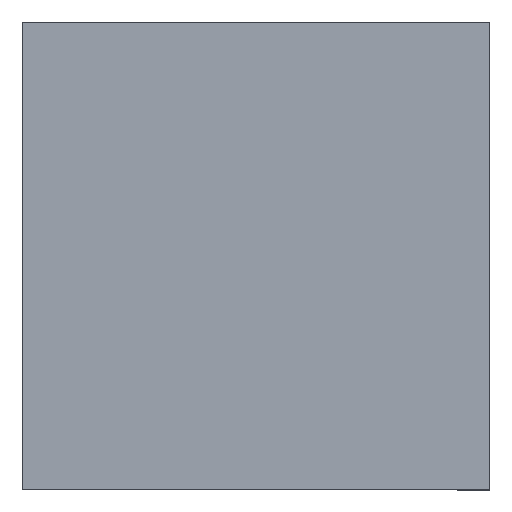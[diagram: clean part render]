
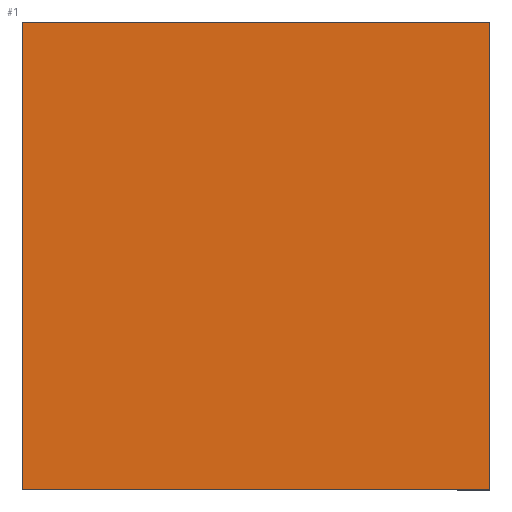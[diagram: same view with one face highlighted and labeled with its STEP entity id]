
A CAD part, top view. The second image highlights one B-rep face of the part: STEP entity #1.
In plain terms, the highlighted planar face has unit normal (0, 0, 1).
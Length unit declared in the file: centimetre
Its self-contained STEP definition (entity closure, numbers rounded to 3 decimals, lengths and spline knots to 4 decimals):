
#1 = ADVANCED_FACE ( 'NONE', ( #322 ), #770, .T. ) ;
#4 = VERTEX_POINT ( 'NONE', #210 ) ;
#10 = CARTESIAN_POINT ( 'NONE',  ( 1000., 1000., 1000. ) ) ;
#31 = CARTESIAN_POINT ( 'NONE',  ( 0., 1000., 1000. ) ) ;
#95 = LINE ( 'NONE', #31, #574 ) ;
#115 = VECTOR ( 'NONE', #271, 100. ) ;
#134 = LINE ( 'NONE', #393, #729 ) ;
#143 = VERTEX_POINT ( 'NONE', #542 ) ;
#210 = CARTESIAN_POINT ( 'NONE',  ( 0., 0., 1000. ) ) ;
#211 = ORIENTED_EDGE ( 'NONE', *, *, #437, .T. ) ;
#234 = CARTESIAN_POINT ( 'NONE',  ( 0., 1000., 1000. ) ) ;
#247 = VECTOR ( 'NONE', #562, 100. ) ;
#271 = DIRECTION ( 'NONE',  ( -1., 0., 0. ) ) ;
#275 = CARTESIAN_POINT ( 'NONE',  ( 0., 1000., 1000. ) ) ;
#277 = ORIENTED_EDGE ( 'NONE', *, *, #408, .T. ) ;
#317 = DIRECTION ( 'NONE',  ( 1., 0., 0. ) ) ;
#322 = FACE_OUTER_BOUND ( 'NONE', #392, .T. ) ;
#334 = AXIS2_PLACEMENT_3D ( 'NONE', #391, #466, #381 ) ;
#368 = DIRECTION ( 'NONE',  ( 0., -1., 0. ) ) ;
#381 = DIRECTION ( 'NONE',  ( 1., 0., 0. ) ) ;
#383 = VERTEX_POINT ( 'NONE', #234 ) ;
#391 = CARTESIAN_POINT ( 'NONE',  ( 0., 0., 1000. ) ) ;
#392 = EDGE_LOOP ( 'NONE', ( #277, #519, #211, #467 ) ) ;
#393 = CARTESIAN_POINT ( 'NONE',  ( 0., 0., 1000. ) ) ;
#408 = EDGE_CURVE ( 'NONE', #383, #4, #95, .T. ) ;
#437 = EDGE_CURVE ( 'NONE', #143, #812, #803, .T. ) ;
#466 = DIRECTION ( 'NONE',  ( 0., 0., 1. ) ) ;
#467 = ORIENTED_EDGE ( 'NONE', *, *, #581, .T. ) ;
#519 = ORIENTED_EDGE ( 'NONE', *, *, #810, .T. ) ;
#542 = CARTESIAN_POINT ( 'NONE',  ( 1000., 0., 1000. ) ) ;
#562 = DIRECTION ( 'NONE',  ( 0., 1., 0. ) ) ;
#574 = VECTOR ( 'NONE', #368, 100. ) ;
#581 = EDGE_CURVE ( 'NONE', #812, #383, #592, .T. ) ;
#592 = LINE ( 'NONE', #275, #115 ) ;
#729 = VECTOR ( 'NONE', #317, 100. ) ;
#735 = CARTESIAN_POINT ( 'NONE',  ( 1000., 1000., 1000. ) ) ;
#770 = PLANE ( 'NONE',  #334 ) ;
#803 = LINE ( 'NONE', #735, #247 ) ;
#810 = EDGE_CURVE ( 'NONE', #4, #143, #134, .T. ) ;
#812 = VERTEX_POINT ( 'NONE', #10 ) ;
